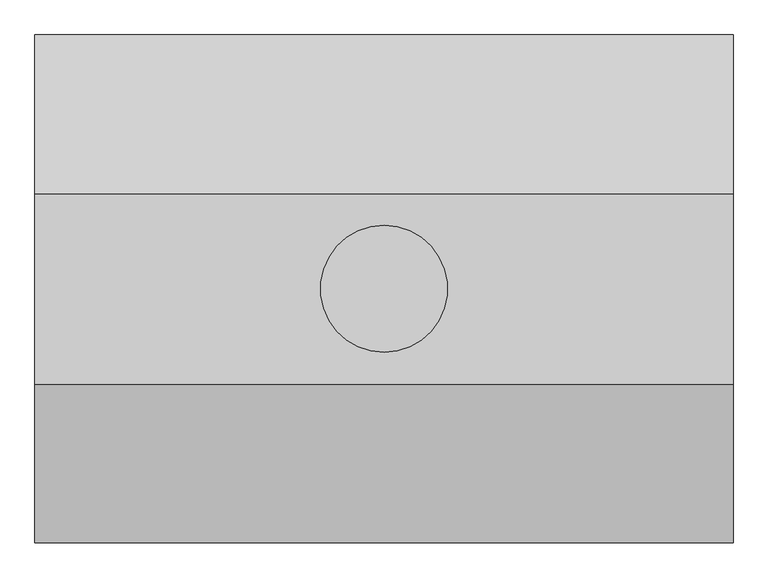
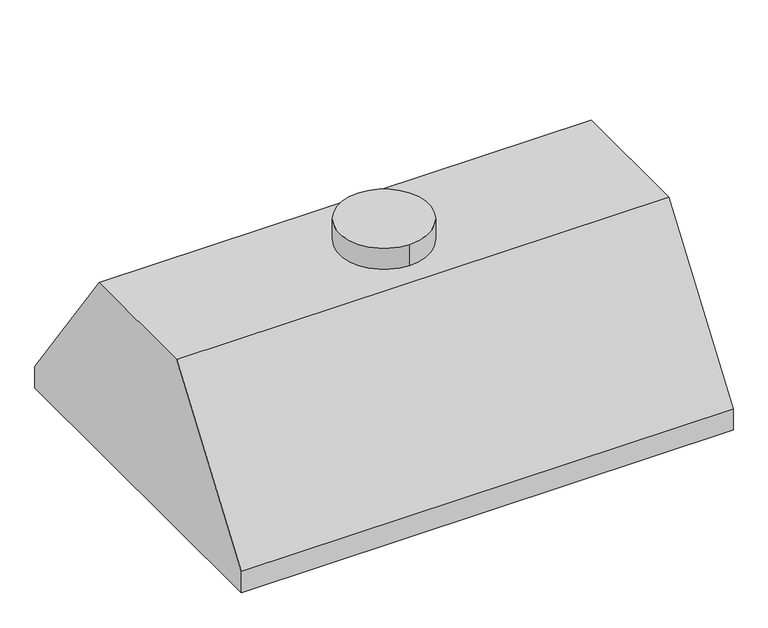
"""IFC4 building model written with IfcOpenShell, lengths in millimetres: air terminal geometry, BL_ЗонтВытяжной_Островной_ЗВО : BL_ЗонтВытяжной_Островной_ЗВО."""

from ifc_helpers import new_model, si_unit, point, frame, origin, origin_2d, place, context, project, spatial, circle_curve, trimmed, segment, composite_curve, outline, extrude, faceted_brep, source, transform, mapped, element, save


def air_terminal_75e9669e(model_context):
    return source(origin(), model_context, "Body", "SolidModel", [
        extrude(outline(composite_curve([segment(trimmed(circle_curve(origin_2d(), 100.0), [point((0.0, -100.0))], [point((0.0, 100.0))], False, "CARTESIAN"), True, "CONTINUOUS"), segment(trimmed(circle_curve(origin_2d(), 100.0), [point((0.0, 100.0))], [point((0.0, -100.0))], False, "CARTESIAN"), True, "CONTINUOUS")], self_intersect=False)), frame((0.0, 0.0, 400.0), z_axis=(0.0, 0.0, 1.0), x_axis=(1.0, 0.0, 0.0)), (0.0, 0.0, 1.0), 50.0),
        faceted_brep([(550.0, 400.0, 0.0), (550.0, 400.0, 50.0), (550.0, 150.0, 400.0), (550.0, -150.0, 400.0), (550.0, -400.0, 50.0), (550.0, -400.0, 0.0), (-550.0, 400.0, 0.0), (-550.0, -400.0, 0.0), (-550.0, -400.0, 50.0), (-550.0, -150.0, 400.0), (-550.0, 150.0, 400.0), (-550.0, 400.0, 50.0), (520.0, -380.0, 0.0), (520.0, -25.0, 0.0), (-520.0, -25.0, 0.0), (-520.0, -380.0, 0.0), (520.0, 25.0, 0.0), (520.0, 380.0, 0.0), (-520.0, 380.0, 0.0), (-520.0, 25.0, 0.0), (520.0, -380.0, 50.0), (520.0, -130.0, 380.0), (520.0, 130.0, 380.0), (520.0, 380.0, 50.0), (-520.0, 380.0, 50.0), (-520.0, 130.0, 380.0), (-520.0, -130.0, 380.0), (-520.0, -380.0, 50.0)], [[[0, 1, 2, 3, 4, 5]], [[6, 7, 8, 9, 10, 11]], [[1, 0, 6, 11]], [[2, 1, 11, 10]], [[3, 2, 10, 9]], [[4, 3, 9, 8]], [[5, 4, 8, 7]], [[0, 5, 7, 6], [12, 13, 14, 15], [16, 17, 18, 19]], [[12, 20, 21, 13]], [[16, 22, 23, 17]], [[18, 24, 25, 19]], [[14, 26, 27, 15]], [[17, 23, 24, 18]], [[20, 12, 15, 27]], [[23, 22, 25, 24]], [[22, 16, 19, 25]], [[13, 21, 26, 14]], [[21, 20, 27, 26]]]),
    ])


if __name__ == "__main__":
    model = new_model("IFC4")
    model_context = context("Model", 3, world=origin())
    ifc_project = project(units=[si_unit("LENGTHUNIT", "METRE", prefix="MILLI")], contexts=[model_context])
    site = spatial("IfcSite", under=ifc_project)
    building = spatial("IfcBuilding", under=site)
    placement = place(None, origin())
    air_terminal_shape = air_terminal_75e9669e(model_context)
    element("IfcAirTerminal", 1, ObjectType="BL_ЗонтВытяжной_Островной_ЗВО : BL_ЗонтВытяжной_Островной_ЗВО", at=placement, inside=building, context=model_context, shape_type="MappedRepresentation", body=[
        mapped(air_terminal_shape, transform((0.0, 0.0, 0.0), x_axis=(1.0, 0.0, 0.0), y_axis=(0.0, 1.0, 0.0), z_axis=(0.0, 0.0, 1.0))),
    ])
    save(model, "model.ifc")
